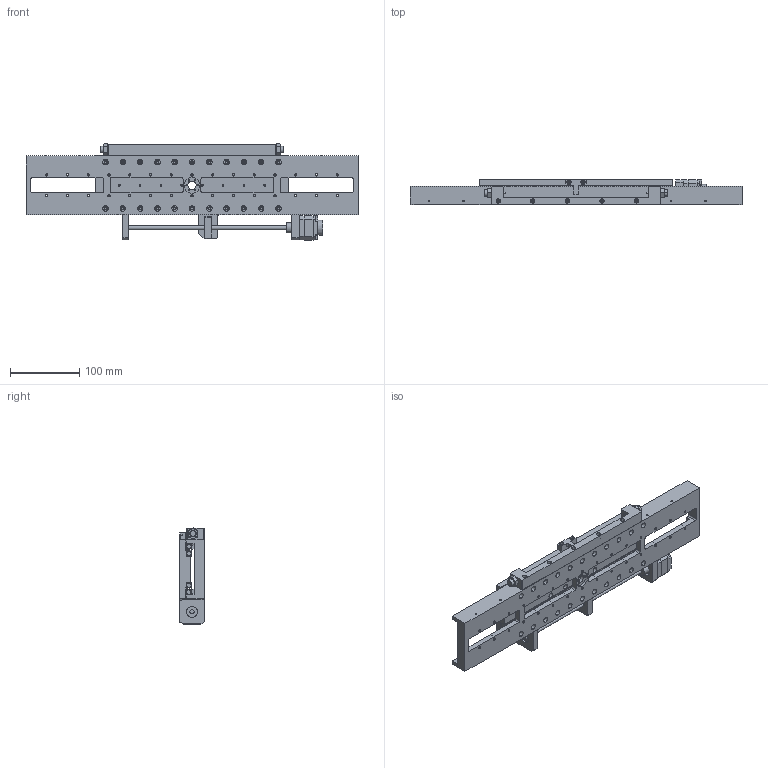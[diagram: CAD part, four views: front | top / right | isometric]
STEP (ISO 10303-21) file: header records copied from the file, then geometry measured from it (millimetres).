
FILE_DESCRIPTION (( 'STEP AP214' ), '1' );
FILE_NAME ('VSM17-X-200-LS.STEP', '2022-12-15T15:03:04', ( '' ), ( '' ), 'SwSTEP 2.0', 'SolidWorks 2022', '' );
FILE_SCHEMA (( 'AUTOMOTIVE_DESIGN' ));
Length unit declared in the file: millimetre
Products named in the file (11): VSM17-X-200 Limit switch mounting block; 3-8 UNF Nut; Simplified VSM17-X LS Actuator; Simplified Drivetrain_VSM17-X-200; CRW3_275C35SL_7; Simplified Motor_H; Simplified VSM17-X-200 Carriage; VSM17-X-200-LS; Simplified Limit Switch; Simplified VSM17-X-200 Base V2; Simplified Leadscrew Nut
Assembly tree (15 placements, depth 2):
  VSM17-X-200-LS
    Simplified VSM17-X-200 Base V2
    CRW3_275C35SL_7  x4
    Simplified VSM17-X-200 Carriage
    Simplified Motor_H
    Simplified Drivetrain_VSM17-X-200
    Simplified Leadscrew Nut
    Simplified VSM17-X LS Actuator
    VSM17-X-200 Limit switch mounting block
    Simplified Limit Switch  x2
    3-8 UNF Nut  x2
Bounding box: 480 x 36 x 138.95 mm (x, y, z)
Volume: 877632.8 mm3; surface area: 285808.9 mm2
Topology: 15 solids, 15 shells, 1356 faces, 3418 edges, 2173 vertices
Faces by surface type: cylinder 722, plane 398, cone 216, torus 20
Entity records: 33687 total; most frequent: DIRECTION 5519, CARTESIAN_POINT 5261, ORIENTED_EDGE 4784, EDGE_CURVE 2392, AXIS2_PLACEMENT_3D 2184, VERTEX_POINT 1566, EDGE_LOOP 1362, CIRCLE 1218
